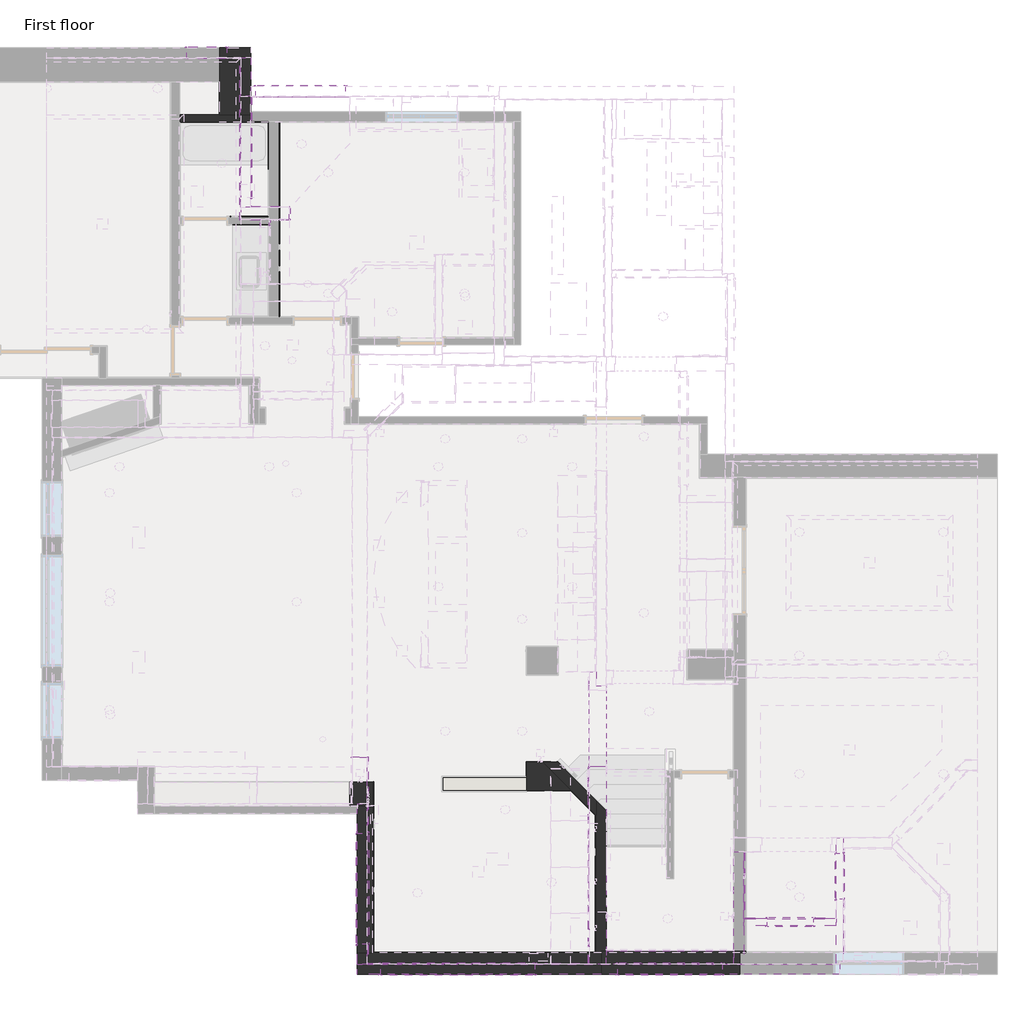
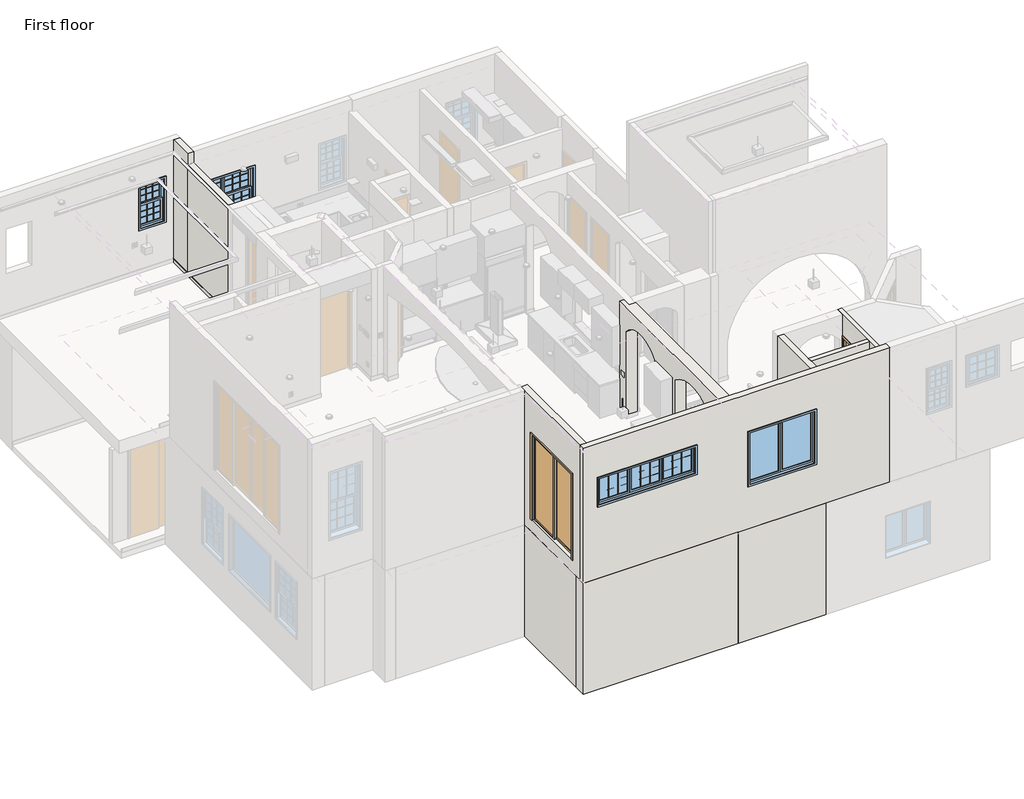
# One storey, part 3 of 14: 58 walls, 4 windows, 3 doors.
"""IFC4 building model written with IfcOpenShell, lengths in millimetres."""

from ifc_helpers import new_model, si_unit, frame, origin, origin_with_axes, place, context, project, spatial, polyline, circle_curve, outline, extrude, faceted_brep, transform, mapped, element, save
from ifc_brep_helpers import plane_surface, revolved_surface, advanced_brep
from components import door_2f67bbe1, door_9b4f77d6, window_c90586ce, window_8e291759, window_02472b39, window_cca6b115

model = new_model("IFC4")

# Units and contexts
model_context = context("Model", 3, world=origin())
ifc_project = project(units=[si_unit("LENGTHUNIT", "METRE", prefix="MILLI")], contexts=[model_context])

# Site, building, storey
site = spatial("IfcSite", under=ifc_project)
building = spatial("IfcBuilding", under=site)
storey = spatial("IfcBuildingStorey", under=building, Name="First floor", Elevation=0.0)

# Doors
placement = place(None, origin())
door_shape = door_2f67bbe1(model_context)
element("IfcDoor", 1, ObjectType="C_Single Door : 2'-4\" X 8'-0\"", at=placement, inside=storey, context=model_context, shape_type="MappedRepresentation", body=[
    mapped(door_shape, transform((7137.4, 857.25, 3251.2), x_axis=(1.0, 0.0, 0.0), y_axis=(0.0, 1.0, 0.0), z_axis=(0.0, 0.0, 1.0))),
])
element("IfcDoor", 2, ObjectType="C_Single Door : 2'-4\" X 8'-0\"", at=placement, inside=storey, context=model_context, shape_type="MappedRepresentation", body=[
    mapped(door_shape, transform((7956.55, 1612.9, 3251.2), x_axis=(0.0, -1.0, 0.0), y_axis=(1.0, 0.0, 0.0), z_axis=(0.0, 0.0, 1.0))),
])
door_2_shape = door_9b4f77d6(model_context)
element("IfcDoor", 3, ObjectType="C_Sliding Door Double Glass : 5'-10\" X 7'-8\"", at=placement, inside=storey, context=model_context, shape_type="MappedRepresentation", body=[
    mapped(door_2_shape, transform((82.55, 1409.7, 3251.2), x_axis=(0.0, -1.0, 0.0), y_axis=(1.0, 0.0, 0.0), z_axis=(0.0, 0.0, 1.0))),
])

# Walls
element("IfcWall", 4, ObjectType="Wall Border_T1", at=placement, inside=storey, context=model_context, shape_type="SweptSolid", body=[
    extrude(outline(polyline([(3307.2174749, 3505.3868122), (3455.3917009, 3357.2125862), (3446.4114448, 3348.2323301), (3301.9569627, 3492.6868122), (3307.2174749, 3492.6868122), (3307.2174749, 3505.3868122)])), origin_with_axes(), (0.0, 0.0, 1.0), 101.6),
])
element("IfcWall", 5, ObjectType="Wall Border_T1", at=placement, inside=storey, context=model_context, shape_type="Brep", body=[
    faceted_brep([(3307.2174749, 3505.3868122, 101.6), (3307.2174749, 3505.3868122, 0.0), (2795.4633407, 3505.3868122, 0.0), (2795.4633407, 3505.3868122, 101.6), (3307.2174749, 3492.6868122, 0.0), (3307.2174749, 3492.6868122, 101.6), (3301.9569627, 3492.6868122, 101.6), (2795.4633407, 3492.6868122, 101.6), (2795.4633407, 3492.6868122, 0.0), (3301.9569627, 3492.6868122, 0.0)], [[[0, 1, 2, 3]], [[4, 5, 6, 7, 8, 9]], [[1, 4, 9, 8, 2]], [[5, 0, 3, 7, 6]], [[1, 0, 5, 4]], [[3, 2, 8, 7]]]),
])
element("IfcWall", 6, ObjectType="Wall Border_T1", at=placement, inside=storey, context=model_context, shape_type="Brep", body=[
    faceted_brep([(2782.7633407, 3505.3868122, 0.0), (2782.7633407, 3251.1999999, 0.0), (2782.7633407, 3238.5176057, 0.0), (2782.7633407, 3238.5176057, 101.6), (2782.7633407, 3251.1999999, 101.6), (2782.7633407, 3505.3868122, 101.6), (2795.4633407, 3505.3868122, 0.0), (2795.4633407, 3505.3868122, 101.6), (2795.4633407, 3492.6868122, 101.6), (2795.4633407, 3238.5176057, 101.6), (2795.4633407, 3238.5176057, 0.0), (2795.4633407, 3492.6868122, 0.0)], [[[0, 1, 2, 3, 4, 5]], [[6, 7, 8, 9, 10, 11]], [[2, 1, 0, 6, 11, 10]], [[3, 2, 10, 9]], [[5, 4, 3, 9, 8, 7]], [[0, 5, 7, 6]]]),
])
element("IfcWall", 7, ObjectType="Wall Border_T1", at=placement, inside=storey, context=model_context, shape_type="Brep", body=[
    faceted_brep([(2782.7633407, 3251.1999999, 0.0), (1404.7963099, 3251.1999999, 0.0), (1404.7963099, 3251.1999999, 101.6), (2782.7633407, 3251.1999999, 101.6), (2782.7633407, 3238.4999999, 0.0), (2782.7633407, 3238.4999999, 101.6), (1417.4963099, 3238.4999999, 101.6), (1404.7963099, 3238.4999999, 101.6), (1404.7963099, 3238.4999999, 0.0), (1417.4963099, 3238.4999999, 0.0)], [[[0, 1, 2, 3]], [[4, 5, 6, 7, 8, 9]], [[1, 0, 4, 9, 8]], [[3, 2, 7, 6, 5]], [[0, 3, 5, 4]], [[2, 1, 8, 7]]]),
])
element("IfcWall", 8, ObjectType="Wall Border_T1", at=placement, inside=storey, context=model_context, shape_type="Brep", body=[
    faceted_brep([(1404.7963099, 3022.6000001, 0.0), (3520.4528287, 3022.6000001, 0.0), (3520.4528287, 3022.6000001, 101.6), (1404.7963099, 3022.6000001, 101.6), (1404.7963099, 3035.3000001, 0.0), (1404.7963099, 3035.3000001, 101.6), (1417.4963099, 3035.3000001, 101.6), (3507.7528287, 3035.3000001, 101.6), (3507.7528287, 3035.3000001, 0.0), (1417.4963099, 3035.3000001, 0.0)], [[[0, 1, 2, 3]], [[4, 5, 6, 7, 8, 9]], [[1, 0, 4, 9, 8]], [[3, 2, 7, 6, 5]], [[0, 3, 5, 4]], [[2, 1, 8, 7]]]),
])
element("IfcWall", 9, ObjectType="Wall Border_T1", at=placement, inside=storey, context=model_context, shape_type="Brep", body=[
    faceted_brep([(3507.7528287, 3035.3000001, 0.0), (3520.4528287, 3022.6000001, 0.0), (3924.3000001, 2618.7528287, 0.0), (3937.0000001, 2606.0528287, 0.0), (3937.0000001, 2606.0528287, 101.6), (3924.3000001, 2618.7528287, 101.6), (3520.4528287, 3022.6000001, 101.6), (3507.7528287, 3035.3000001, 101.6), (3525.7133409, 3035.3000001, 0.0), (3525.7133409, 3035.3000001, 101.6), (3937.0000001, 2624.0133409, 101.6), (3937.0000001, 2624.0133409, 0.0)], [[[0, 1, 2, 3, 4, 5, 6, 7]], [[8, 9, 10, 11]], [[3, 2, 1, 0, 8, 11]], [[7, 6, 5, 4, 10, 9]], [[4, 3, 11, 10]], [[0, 7, 9, 8]]]),
])
element("IfcWall", 10, ObjectType="Wall Border_T1", at=placement, inside=storey, context=model_context, shape_type="SweptSolid", body=[
    extrude(outline(polyline([(3924.3000001, 361.9499999), (3924.3000001, 2618.7528287), (3937.0000001, 2606.0528287), (3937.0000001, 361.9499999), (3924.3000001, 361.9499999)])), origin_with_axes(), (0.0, 0.0, 1.0), 101.6),
])
element("IfcWall", 11, ObjectType="Wall Border_T1", at=placement, inside=storey, context=model_context, shape_type="Brep", body=[
    faceted_brep([(3937.0000001, 361.9499999, 0.0), (3924.3000001, 361.9499999, 0.0), (266.7000001, 361.9499999, 0.0), (254.0000001, 361.9499999, 0.0), (254.0000001, 361.9499999, 101.6), (266.7000001, 361.9499999, 101.6), (3924.3000001, 361.9499999, 101.6), (3937.0000001, 361.9499999, 101.6), (3937.0000001, 349.2499999, 0.0), (3937.0000001, 349.2499999, 101.6), (254.0000001, 349.2499999, 101.6), (254.0000001, 349.2499999, 0.0)], [[[0, 1, 2, 3, 4, 5, 6, 7]], [[8, 9, 10, 11]], [[3, 2, 1, 0, 8, 11]], [[4, 3, 11, 10]], [[7, 6, 5, 4, 10, 9]], [[0, 7, 9, 8]]]),
])
element("IfcWall", 12, ObjectType="Wall Border_T1", at=placement, inside=storey, context=model_context, shape_type="Brep", body=[
    faceted_brep([(266.7000001, 361.9499999, 0.0), (266.7000001, 3174.9999999, 0.0), (266.7000001, 3174.9999999, 101.6), (266.7000001, 361.9499999, 101.6), (254.0000001, 361.9499999, 0.0), (254.0000001, 361.9499999, 101.6), (254.0000001, 3162.2999999, 101.6), (254.0000001, 3174.9999999, 101.6), (254.0000001, 3174.9999999, 0.0), (254.0000001, 3162.2999999, 0.0), (254.0000001, 2768.6, 0.0)], [[[0, 1, 2, 3]], [[4, 5, 6, 7, 8, 9, 10]], [[1, 0, 4, 10, 9, 8]], [[2, 1, 8, 7]], [[3, 2, 7, 6, 5]], [[0, 3, 5, 4]]]),
])
element("IfcWall", 13, ObjectType="Wall Border_T1", at=placement, inside=storey, context=model_context, shape_type="Brep", body=[
    faceted_brep([(-1460.5, 12496.8, 0.0), (-1473.2, 12496.8, 0.0), (-2108.2, 12496.8, 0.0), (-2108.2, 12496.8, 101.6), (-1473.2, 12496.8, 101.6), (-1460.5, 12496.8, 101.6), (-1460.5, 12484.1, 0.0), (-1460.5, 12484.1, 101.6), (-2108.2, 12484.1, 101.6), (-2108.2, 12484.1, 0.0)], [[[0, 1, 2, 3, 4, 5]], [[6, 7, 8, 9]], [[2, 1, 0, 6, 9]], [[3, 2, 9, 8]], [[5, 4, 3, 8, 7]], [[0, 5, 7, 6]]]),
])
element("IfcWall", 14, ObjectType="Wall Border_T1", at=placement, inside=storey, context=model_context, shape_type="Brep", body=[
    faceted_brep([(-1282.7, 10833.1, 0.0), (-1282.7, 10845.8, 0.0), (-1282.7, 14046.2, 0.0), (-1282.7, 14058.9, 0.0), (-1282.7, 14058.9, 101.6), (-1282.7, 14046.2, 101.6), (-1282.7, 10845.8, 101.6), (-1282.7, 10833.1, 101.6), (-1295.4, 10833.1, 0.0), (-1295.4, 10833.1, 101.6), (-1295.4, 14058.9, 101.6), (-1295.4, 14058.9, 0.0)], [[[0, 1, 2, 3, 4, 5, 6, 7]], [[8, 9, 10, 11]], [[3, 2, 1, 0, 8, 11]], [[4, 3, 11, 10]], [[7, 6, 5, 4, 10, 9]], [[0, 7, 9, 8]]]),
])
element("IfcWall", 15, ObjectType="Wall Border_T1", at=placement, inside=storey, context=model_context, shape_type="Brep", body=[
    faceted_brep([(-1460.5, 13271.5, 0.0), (-1460.5, 14058.9, 0.0), (-1460.5, 14058.9, 2565.4), (-1460.5, 13271.5, 2565.4), (-1473.2, 13271.5, 0.0), (-1473.2, 13271.5, 2565.4), (-1473.2, 14046.2, 2565.4), (-1473.2, 14058.9, 2565.4), (-1473.2, 14058.9, 0.0), (-1473.2, 14046.2, 0.0)], [[[0, 1, 2, 3]], [[4, 5, 6, 7, 8, 9]], [[1, 0, 4, 9, 8]], [[3, 2, 7, 6, 5]], [[0, 3, 5, 4]], [[2, 1, 8, 7]]]),
])
element("IfcWall", 16, ObjectType="Wall Border_T1", at=placement, inside=storey, context=model_context, shape_type="Brep", body=[
    faceted_brep([(-1473.2, 14058.9, 0.0), (-2933.7, 14058.9, 0.0), (-2933.7, 14058.9, 2565.4), (-1473.2, 14058.9, 2565.4), (-1473.2, 14046.2, 0.0), (-1473.2, 14046.2, 2565.4), (-2921.0, 14046.2, 2565.4), (-2933.7, 14046.2, 2565.4), (-2933.7, 14046.2, 0.0), (-2921.0, 14046.2, 0.0)], [[[0, 1, 2, 3]], [[4, 5, 6, 7, 8, 9]], [[1, 0, 4, 9, 8]], [[3, 2, 7, 6, 5]], [[0, 3, 5, 4]], [[2, 1, 8, 7]]]),
])
element("IfcWall", 17, ObjectType="Wall Border_T1", at=placement, inside=storey, context=model_context, shape_type="Brep", body=[
    faceted_brep([(4102.1, 3428.8947939, 3251.2), (3810.0, 3428.8947939, 3251.2), (3810.0, 3428.8947939, 3352.8), (4102.1, 3428.8947939, 3352.8), (4102.1, 3416.1947939, 3251.2), (4102.1, 3416.1947939, 3352.8), (3822.7, 3416.1947939, 3352.8), (3810.0, 3416.1947939, 3352.8), (3810.0, 3416.1947939, 3251.2), (3822.7, 3416.1947939, 3251.2)], [[[0, 1, 2, 3]], [[4, 5, 6, 7, 8, 9]], [[1, 0, 4, 9, 8]], [[3, 2, 7, 6, 5]], [[0, 3, 5, 4]], [[2, 1, 8, 7]]]),
])
element("IfcWall", 18, ObjectType="Wall Border_T1", at=placement, inside=storey, context=model_context, shape_type="SweptSolid", body=[
    extrude(outline(polyline([(3822.7, 3416.1947939), (3822.7, 3384.55), (3810.0, 3384.55), (3810.0, 3416.1947939), (3822.7, 3416.1947939)])), frame((0.0, 0.0, 3251.2), z_axis=(0.0, 0.0, 1.0), x_axis=(1.0, 0.0, 0.0)), (0.0, 0.0, 1.0), 101.6),
])
element("IfcWall", 19, ObjectType="Wall Border_T1", at=placement, inside=storey, context=model_context, shape_type="Brep", body=[
    faceted_brep([(6375.4, 2006.6, 3251.2), (6375.4, 914.4, 3251.2), (6375.4, 914.4, 3352.8), (6375.4, 2006.6, 3352.8), (6388.1, 2006.6, 3251.2), (6388.1, 2006.6, 3352.8), (6388.1, 927.1, 3352.8), (6388.1, 914.4, 3352.8), (6388.1, 914.4, 3251.2), (6388.1, 927.1, 3251.2)], [[[0, 1, 2, 3]], [[4, 5, 6, 7, 8, 9]], [[1, 0, 4, 9, 8]], [[3, 2, 7, 6, 5]], [[0, 3, 5, 4]], [[2, 1, 8, 7]]]),
])
element("IfcWall", 20, ObjectType="Wall Border_T1", at=placement, inside=storey, context=model_context, shape_type="SweptSolid", body=[
    extrude(outline(polyline([(6731.0, 914.4), (6388.1, 914.4), (6388.1, 927.1), (6731.0, 927.1), (6731.0, 914.4)])), frame((0.0, 0.0, 3251.2), z_axis=(0.0, 0.0, 1.0), x_axis=(1.0, 0.0, 0.0)), (0.0, 0.0, 1.0), 101.6),
])
element("IfcWall", 21, ObjectType="Wall Border_T1", at=placement, inside=storey, context=model_context, shape_type="SweptSolid", body=[
    extrude(outline(polyline([(7543.8, 927.1), (7886.7, 927.1), (7886.7, 914.4), (7543.8, 914.4), (7543.8, 927.1)])), frame((0.0, 0.0, 3251.2), z_axis=(0.0, 0.0, 1.0), x_axis=(1.0, 0.0, 0.0)), (0.0, 0.0, 1.0), 101.6),
])
element("IfcWall", 22, ObjectType="Wall Border_T1", at=placement, inside=storey, context=model_context, shape_type="Brep", body=[
    faceted_brep([(-1593.85, 12344.2947939, 3251.2), (-1593.85, 12445.8947939, 3251.2), (-1593.85, 12445.8947939, 3352.8), (-1593.85, 12344.2947939, 3352.8), (-1606.55, 12344.2947939, 3251.2), (-1606.55, 12344.2947939, 3352.8), (-1606.55, 12433.1947939, 3352.8), (-1606.55, 12445.8947939, 3352.8), (-1606.55, 12445.8947939, 3251.2), (-1606.55, 12433.1947939, 3251.2)], [[[0, 1, 2, 3]], [[4, 5, 6, 7, 8, 9]], [[1, 0, 4, 9, 8]], [[3, 2, 7, 6, 5]], [[0, 3, 5, 4]], [[2, 1, 8, 7]]]),
])
element("IfcWall", 23, ObjectType="Wall Border_T1", at=placement, inside=storey, context=model_context, shape_type="Brep", body=[
    faceted_brep([(-1606.55, 12445.8947939, 3251.2), (-1924.05, 12445.8947939, 3251.2), (-1936.75, 12445.8947939, 3251.2), (-1936.75, 12445.8947939, 3352.8), (-1924.05, 12445.8947939, 3352.8), (-1606.55, 12445.8947939, 3352.8), (-1606.55, 12433.1947939, 3251.2), (-1606.55, 12433.1947939, 3352.8), (-1936.75, 12433.1947939, 3352.8), (-1936.75, 12433.1947939, 3251.2)], [[[0, 1, 2, 3, 4, 5]], [[6, 7, 8, 9]], [[2, 1, 0, 6, 9]], [[5, 4, 3, 8, 7]], [[0, 5, 7, 6]], [[3, 2, 9, 8]]]),
])
element("IfcWall", 24, ObjectType="Wall Border_T1", at=placement, inside=storey, context=model_context, shape_type="Brep", body=[
    faceted_brep([(-1924.05, 12445.8947939, 3251.2), (-1924.05, 15113.0, 3251.2), (-1924.05, 15113.0, 3352.8), (-1924.05, 12445.8947939, 3352.8), (-1936.75, 12445.8947939, 3251.2), (-1936.75, 12445.8947939, 3352.8), (-1936.75, 15100.3, 3352.8), (-1936.75, 15113.0, 3352.8), (-1936.75, 15113.0, 3251.2), (-1936.75, 15100.3, 3251.2)], [[[0, 1, 2, 3]], [[4, 5, 6, 7, 8, 9]], [[1, 0, 4, 9, 8]], [[3, 2, 7, 6, 5]], [[0, 3, 5, 4]], [[2, 1, 8, 7]]]),
])
element("IfcWall", 25, ObjectType="Wall Border_T1", at=placement, inside=storey, context=model_context, shape_type="Brep", body=[
    faceted_brep([(-1441.45, 12344.2947939, 3251.2), (-1441.45, 12433.1947939, 3251.2), (-1441.45, 12445.8947939, 3251.2), (-1441.45, 12445.8947939, 3352.8), (-1441.45, 12433.1947939, 3352.8), (-1441.45, 12344.2947939, 3352.8), (-1454.15, 12344.2947939, 3251.2), (-1454.15, 12344.2947939, 3352.8), (-1454.15, 12445.8947939, 3352.8), (-1454.15, 12445.8947939, 3251.2)], [[[0, 1, 2, 3, 4, 5]], [[6, 7, 8, 9]], [[2, 1, 0, 6, 9]], [[5, 4, 3, 8, 7]], [[0, 5, 7, 6]], [[3, 2, 9, 8]]]),
])
element("IfcWall", 26, ObjectType="Wall Border_T1", at=placement, inside=storey, context=model_context, shape_type="Brep", body=[
    faceted_brep([(-1441.45, 12433.1947939, 3251.2), (-1111.25, 12433.1947939, 3251.2), (-1111.25, 12433.1947939, 3352.8), (-1441.45, 12433.1947939, 3352.8), (-1441.45, 12445.8947939, 3251.2), (-1441.45, 12445.8947939, 3352.8), (-1123.95, 12445.8947939, 3352.8), (-1111.25, 12445.8947939, 3352.8), (-1111.25, 12445.8947939, 3251.2), (-1123.95, 12445.8947939, 3251.2)], [[[0, 1, 2, 3]], [[4, 5, 6, 7, 8, 9]], [[1, 0, 4, 9, 8]], [[3, 2, 7, 6, 5]], [[0, 3, 5, 4]], [[2, 1, 8, 7]]]),
])
element("IfcWall", 27, ObjectType="Wall Border_T1", at=placement, inside=storey, context=model_context, shape_type="Brep", body=[
    faceted_brep([(-1111.25, 12445.8947939, 3251.2), (-1111.25, 12637.3654945, 3251.2), (-1111.25, 12649.0947939, 3251.2), (-1111.25, 12649.0947939, 3352.8), (-1111.25, 12637.3654945, 3352.8), (-1111.25, 12445.8947939, 3352.8), (-1123.95, 12445.8947939, 3251.2), (-1123.95, 12445.8947939, 3352.8), (-1123.95, 12623.6947939, 3352.8), (-1123.95, 12649.0947939, 3352.8), (-1123.95, 12649.0947939, 3251.2)], [[[0, 1, 2, 3, 4, 5]], [[6, 7, 8, 9, 10]], [[2, 1, 0, 6, 10]], [[5, 4, 3, 9, 8, 7]], [[0, 5, 7, 6]], [[3, 2, 10, 9]]]),
])
element("IfcWall", 28, ObjectType="Wall Border_T1", at=placement, inside=storey, context=model_context, shape_type="Brep", body=[
    faceted_brep([(-1123.95, 12661.7947939, 3784.6), (-1746.25, 12661.7947939, 3784.6), (-1758.95, 12661.7947939, 3784.6), (-1758.95, 12661.7947939, 4330.7), (-1746.25, 12661.7947939, 4330.7), (-1123.95, 12661.7947939, 4330.7), (-1123.95, 12649.0947939, 3784.6), (-1123.95, 12649.0947939, 4330.7), (-1758.95, 12649.0947939, 4330.7), (-1758.95, 12649.0947939, 3784.6)], [[[0, 1, 2, 3, 4, 5]], [[6, 7, 8, 9]], [[2, 1, 0, 6, 9]], [[5, 4, 3, 8, 7]], [[0, 5, 7, 6]], [[3, 2, 9, 8]]]),
])
element("IfcWall", 29, ObjectType="Wall Border_T1", at=placement, inside=storey, context=model_context, shape_type="Brep", body=[
    faceted_brep([(-1746.25, 12661.7947939, 3784.6), (-1746.25, 14465.1947939, 3784.6), (-1746.25, 14477.8947939, 3784.6), (-1746.25, 14477.8947939, 4330.7), (-1746.25, 14465.1947939, 4330.7), (-1746.25, 12661.7947939, 4330.7), (-1758.95, 12661.7947939, 3784.6), (-1758.95, 12661.7947939, 4330.7), (-1758.95, 14477.8947939, 4330.7), (-1758.95, 14477.8947939, 3784.6)], [[[0, 1, 2, 3, 4, 5]], [[6, 7, 8, 9]], [[2, 1, 0, 6, 9]], [[5, 4, 3, 8, 7]], [[0, 5, 7, 6]], [[3, 2, 9, 8]]]),
])
element("IfcWall", 30, ObjectType="Wall Border_T1", at=placement, inside=storey, context=model_context, shape_type="SweptSolid", body=[
    extrude(outline(polyline([(-1746.25, 14477.8947939), (-127.0, 14477.8947939), (-127.0, 14465.1947939), (-1746.25, 14465.1947939), (-1746.25, 14477.8947939)])), frame((0.0, 0.0, 3784.6), z_axis=(0.0, 0.0, 1.0), x_axis=(1.0, 0.0, 0.0)), (0.0, 0.0, 1.0), 546.1),
])
element("IfcWall", 31, ObjectType="Wall Border_T1", at=placement, inside=storey, context=model_context, shape_type="Brep", body=[
    faceted_brep([(3517.9, 165.1, 4165.6), (3822.7, 165.1, 4165.6), (3822.7, 165.1, 4546.6), (3517.9, 165.1, 4546.6), (3517.9, 177.8, 4165.6), (3517.9, 177.8, 4546.6), (3810.0, 177.8, 4546.6), (3822.7, 177.8, 4546.6), (3822.7, 177.8, 4165.6), (3810.0, 177.8, 4165.6)], [[[0, 1, 2, 3]], [[4, 5, 6, 7, 8, 9]], [[1, 0, 4, 9, 8]], [[3, 2, 7, 6, 5]], [[0, 3, 5, 4]], [[2, 1, 8, 7]]]),
])
element("IfcWall", 32, ObjectType="Wall Border_T1", at=placement, inside=storey, context=model_context, shape_type="Brep", body=[
    faceted_brep([(3822.7, 177.8, 4165.6), (3822.7, 1016.0, 4165.6), (3822.7, 1016.0, 4318.0), (3822.7, 1016.0, 4546.6), (3822.7, 177.8, 4546.6), (3810.0, 177.8, 4165.6), (3810.0, 177.8, 4546.6), (3810.0, 1016.0, 4546.6), (3810.0, 1016.0, 4318.0), (3810.0, 1016.0, 4165.6)], [[[0, 1, 2, 3, 4]], [[5, 6, 7, 8, 9]], [[1, 0, 5, 9]], [[3, 2, 1, 9, 8, 7]], [[4, 3, 7, 6]], [[0, 4, 6, 5]]]),
])
element("IfcWall", 33, ObjectType="Wall Border_T1", at=placement, inside=storey, context=model_context, shape_type="SweptSolid", body=[
    extrude(outline(polyline([(3187.7, 177.8), (3517.9, 177.8), (3517.9, 165.1), (3187.7, 165.1), (3187.7, 177.8)])), frame((0.0, 0.0, 4165.6), z_axis=(0.0, 0.0, 1.0), x_axis=(1.0, 0.0, 0.0)), (0.0, 0.0, 1.0), 381.0),
])
element("IfcWall", 34, ObjectType="Wall Border_T1", at=placement, inside=storey, context=model_context, shape_type="Brep", body=[
    faceted_brep([(3810.0, 3390.9, 4165.6), (3810.0, 2489.2, 4165.6), (3810.0, 2489.2, 4318.0), (3810.0, 2489.2, 4546.6), (3810.0, 3390.9, 4546.6), (3822.7, 3390.9, 4165.6), (3822.7, 3390.9, 4546.6), (3822.7, 2489.2, 4546.6), (3822.7, 2489.2, 4318.0), (3822.7, 2489.2, 4165.6)], [[[0, 1, 2, 3, 4]], [[5, 6, 7, 8, 9]], [[1, 0, 5, 9]], [[3, 2, 1, 9, 8, 7]], [[4, 3, 7, 6]], [[0, 4, 6, 5]]]),
])
element("IfcWall", 35, ObjectType="Wall Border_T1", at=placement, inside=storey, context=model_context, shape_type="SweptSolid", body=[
    extrude(outline(polyline([(3810.0, 1016.0), (3810.0, 2489.2), (3822.7, 2489.2), (3822.7, 1016.0), (3810.0, 1016.0)])), frame((0.0, 0.0, 4165.6), z_axis=(0.0, 0.0, 1.0), x_axis=(1.0, 0.0, 0.0)), (0.0, 0.0, 1.0), 152.4),
])
element("IfcWall", 36, ObjectType="Wall Border_T1", at=placement, inside=storey, context=model_context, shape_type="Brep", body=[
    faceted_brep([(3086.1, 177.8, 3251.2), (177.8, 177.8, 3251.2), (165.1, 177.8, 3251.2), (165.1, 177.8, 3352.8), (177.8, 177.8, 3352.8), (3086.1, 177.8, 3352.8), (3086.1, 165.1, 3251.2), (3086.1, 165.1, 3352.8), (165.1, 165.1, 3352.8), (165.1, 165.1, 3251.2)], [[[0, 1, 2, 3, 4, 5]], [[6, 7, 8, 9]], [[2, 1, 0, 6, 9]], [[5, 4, 3, 8, 7]], [[0, 5, 7, 6]], [[3, 2, 9, 8]]]),
])
element("IfcWall", 37, ObjectType="Wall Border_T1", at=placement, inside=storey, context=model_context, shape_type="SweptSolid", body=[
    extrude(outline(polyline([(3194.05, 165.1), (3086.1, 165.1), (3086.1, 177.8), (3194.05, 177.8), (3194.05, 165.1)])), frame((0.0, 0.0, 3251.2), z_axis=(0.0, 0.0, 1.0), x_axis=(1.0, 0.0, 0.0)), (0.0, 0.0, 1.0), 101.6),
])
element("IfcWall", 38, ObjectType="Wall Border_T1", at=placement, inside=storey, context=model_context, shape_type="SweptSolid", body=[
    extrude(outline(polyline([(165.1, 177.8), (165.1, 469.9), (177.8, 469.9), (177.8, 177.8), (165.1, 177.8)])), frame((0.0, 0.0, 3251.2), z_axis=(0.0, 0.0, 1.0), x_axis=(1.0, 0.0, 0.0)), (0.0, 0.0, 1.0), 101.6),
])
element("IfcWall", 39, ObjectType="Wall Border_T1", at=placement, inside=storey, context=model_context, shape_type="Brep", body=[
    faceted_brep([(177.8, 2349.5, 3251.2), (177.8, 3581.4, 3251.2), (177.8, 3581.4, 3352.8), (177.8, 2349.5, 3352.8), (165.1, 2349.5, 3251.2), (165.1, 2349.5, 3352.8), (165.1, 3568.7, 3352.8), (165.1, 3581.4, 3352.8), (165.1, 3581.4, 3251.2), (165.1, 3568.7, 3251.2)], [[[0, 1, 2, 3]], [[4, 5, 6, 7, 8, 9]], [[1, 0, 4, 9, 8]], [[3, 2, 7, 6, 5]], [[0, 3, 5, 4]], [[2, 1, 8, 7]]]),
])
element("IfcWall", 40, ObjectType="Wall Border_T1", at=placement, inside=storey, context=model_context, shape_type="Brep", body=[
    faceted_brep([(165.1, 3581.4, 3251.2), (-101.6, 3581.4, 3251.2), (-101.6, 3581.4, 3352.8), (165.1, 3581.4, 3352.8), (165.1, 3568.7, 3251.2), (165.1, 3568.7, 3352.8), (-88.9, 3568.7, 3352.8), (-101.6, 3568.7, 3352.8), (-101.6, 3568.7, 3251.2), (-88.9, 3568.7, 3251.2)], [[[0, 1, 2, 3]], [[4, 5, 6, 7, 8, 9]], [[1, 0, 4, 9, 8]], [[3, 2, 7, 6, 5]], [[0, 3, 5, 4]], [[2, 1, 8, 7]]]),
])
element("IfcWall", 41, ObjectType="Wall Border_T1", at=placement, inside=storey, context=model_context, shape_type="SweptSolid", body=[
    extrude(outline(polyline([(1404.7963099, 3035.3000001), (1404.7963099, 3238.4999999), (1417.4963099, 3238.4999999), (1417.4963099, 3035.3000001), (1404.7963099, 3035.3000001)])), origin_with_axes(), (0.0, 0.0, 1.0), 101.6),
])
element("IfcWall", 42, ObjectType="Wall Border_T1", at=placement, inside=storey, context=model_context, shape_type="Brep", body=[
    faceted_brep([(-2057.4, 12357.1, 838.2), (-1473.2, 12357.1, 838.2), (-1460.5, 12357.1, 838.2), (-1460.5, 12357.1, 939.8), (-1473.2, 12357.1, 939.8), (-2057.4, 12357.1, 939.8), (-2057.4, 12369.8, 838.2), (-2057.4, 12369.8, 939.8), (-1460.5, 12369.8, 939.8), (-1460.5, 12369.8, 838.2)], [[[0, 1, 2, 3, 4, 5]], [[6, 7, 8, 9]], [[2, 1, 0, 6, 9]], [[5, 4, 3, 8, 7]], [[0, 5, 7, 6]], [[3, 2, 9, 8]]]),
])
element("IfcWall", 43, ObjectType="Wall_1' 1 3/4\"", at=placement, inside=storey, context=model_context, shape_type="Brep", body=[
    faceted_brep([(4019.5496704, 349.25, 2908.3), (4019.5496704, 349.25, 2565.4), (4019.5496704, 349.25, 0.0), (4019.5496704, 349.25, -152.4), (254.0176056, 349.25, -152.4), (0.0176056, 349.25, -152.4), (0.0176056, 349.25, 2908.3), (254.0176056, 349.25, 2908.3), (4019.5496704, 0.0, -152.4), (4019.5496704, 0.0, 2908.3), (0.0176056, 0.0, 2908.3), (0.0176056, 0.0, -152.4)], [[[0, 1, 2, 3, 4, 5, 6, 7]], [[8, 9, 10, 11]], [[5, 4, 3, 8, 11]], [[0, 7, 6, 10, 9]], [[6, 5, 11, 10]], [[0, 9, 8, 3, 2, 1]]]),
])
element("IfcWall", 44, ObjectType="Wall_1' 3 1/2\"", at=placement, inside=storey, context=model_context, shape_type="Brep", body=[
    faceted_brep([(254.0000001, 3162.3, 0.0), (-127.0, 3162.3, 0.0), (-127.0, 3162.3, 762.0), (-127.0, 3162.3, 2565.4), (254.0000001, 3162.3, 2565.4), (254.0000001, 2768.6, 0.0), (254.0000001, 2768.6, 2565.4), (-127.0, 2768.6, 2565.4), (-127.0, 2768.6, 762.0), (-127.0, 2768.6, 0.0)], [[[0, 1, 2, 3, 4]], [[5, 6, 7, 8, 9]], [[1, 0, 5, 9]], [[3, 2, 1, 9, 8, 7]], [[4, 3, 7, 6]], [[0, 4, 6, 5]]]),
])
element("IfcWall", 45, ObjectType="Wall_1' 8 1/2\"", at=placement, inside=storey, context=model_context, shape_type="Brep", body=[
    faceted_brep([(-2279.65, 15278.1, -152.4), (-2279.65, 14719.3, -152.4), (-2279.65, 14058.9, -152.4), (-2279.65, 14058.9, 0.0), (-2279.65, 14173.2, 0.0), (-2279.65, 14173.2, 2565.4), (-2279.65, 14058.9, 2565.4), (-2279.65, 14058.9, 2908.3), (-2279.65, 14719.3, 2908.3), (-2279.65, 15278.1, 2908.3), (-1758.95, 15278.1, -152.4), (-1758.95, 15278.1, 2908.3), (-1758.95, 14224.0, 2908.3), (-1758.95, 14058.9, 2908.3), (-1758.95, 14058.9, 2565.4), (-1758.95, 14173.2, 2565.4), (-1758.95, 14173.2, 0.0), (-1758.95, 14058.9, 0.0), (-1758.95, 14058.9, -152.4), (-1758.95, 14224.0, -152.4)], [[[0, 1, 2, 3, 4, 5, 6, 7, 8, 9]], [[10, 11, 12, 13, 14, 15, 16, 17, 18, 19]], [[2, 1, 0, 10, 19, 18]], [[9, 8, 7, 13, 12, 11]], [[0, 9, 11, 10]], [[16, 4, 3, 17]], [[3, 2, 18, 17]], [[14, 6, 5, 15]], [[5, 4, 16, 15]], [[7, 6, 14, 13]]]),
])
element("IfcWall", 46, ObjectType="Wall_1'3\"", at=placement, inside=storey, context=model_context, shape_type="Brep", body=[
    faceted_brep([(4019.5496704, 381.0, 2565.4), (4102.1, 381.0, 2565.4), (6210.3, 381.0, 2565.4), (6400.8, 381.0, 2565.4), (6400.8, 381.0, 0.0), (6210.3, 381.0, 0.0), (4102.0996704, 381.0, 0.0), (4019.5496704, 381.0, 0.0), (4019.5496704, 0.0, 2908.3), (4019.5496704, 0.0, -152.4), (6305.55, 0.0, -152.4), (6305.55, 0.0, 2908.3), (4019.5496704, 349.25, -152.4), (4019.5496704, 355.6, -152.4), (6305.55, 355.6, -152.4), (6305.55, 355.6, 2908.3), (5841.9131509, 355.6, 2908.3), (4019.5496704, 355.6, 2908.3), (4019.5496704, 349.25, 2908.3), (6400.8, 355.6, 2565.4), (6400.8, 355.6, 101.6), (6400.8, 355.6, 0.0), (6400.8, 368.3, 0.0), (4019.5496704, 355.6, 2565.4), (4019.5496704, 355.6, 0.0), (6305.55, 355.6, 2565.4), (6305.55, 355.6, 0.0), (5841.9131509, 355.6, 2565.4)], [[[0, 1, 2, 3, 4, 5, 6, 7]], [[8, 9, 10, 11]], [[10, 9, 12, 13, 14]], [[8, 11, 15, 16, 17, 18]], [[3, 19, 20, 21, 22, 4]], [[9, 8, 18, 17, 23, 0, 7, 24, 13, 12]], [[19, 25, 26, 21, 20]], [[11, 10, 14, 26, 25, 15]], [[27, 25, 19, 3, 2, 1, 0, 23]], [[16, 27, 23, 17]], [[27, 16, 15, 25]], [[26, 24, 7, 6, 5, 4, 22, 21]], [[24, 26, 14, 13]]]),
])
element("IfcWall", 47, ObjectType="Wall_1'6\"", at=placement, inside=storey, context=model_context, shape_type="SweptSolid", body=[
    extrude(outline(polyline([(2795.4484009, 3492.5046239), (3068.5144491, 3492.4988917), (3525.7240469, 3035.2892939), (2795.4388034, 3035.304624), (2795.4484009, 3492.5046239)])), origin_with_axes(), (0.0, 0.0, 1.0), 2565.4),
])
element("IfcWall", 48, ObjectType="Wall_10\"", at=placement, inside=storey, context=model_context, shape_type="Brep", body=[
    faceted_brep([(254.0176056, 349.25, -152.4), (254.0176056, 2768.6, -152.4), (254.0176056, 2768.6, 2908.3), (254.0176056, 349.25, 2908.3), (0.0176056, 349.25, -152.4), (0.0176056, 349.25, 2908.3), (0.0176056, 2641.6, 2908.3), (0.0176056, 2768.6, 2908.3), (0.0176056, 2768.6, -152.4), (0.0176056, 2641.6, -152.4)], [[[0, 1, 2, 3]], [[4, 5, 6, 7, 8, 9]], [[1, 0, 4, 9, 8]], [[3, 2, 7, 6, 5]], [[0, 3, 5, 4]], [[2, 1, 8, 7]]]),
])
element("IfcWall", 49, ObjectType="Wall_11\"", at=placement, inside=storey, context=model_context, shape_type="AdvancedBrep", body=[
    advanced_brep(
    [(3822.7, 165.1, 6299.2), (3822.7, 4984.6447939, 6299.2), (3822.7, 4984.6447939, 3251.2), (3822.7, 4686.1947939, 3251.2), (3822.7, 4686.1947939, 5638.8), (3822.7, 3416.1947939, 5638.8), (3822.7, 3416.1947939, 3251.2), (3822.7, 165.1, 3251.2), (3822.7, 1016.0, 5638.8), (3822.7, 1016.0, 4318.0), (3822.7, 2489.2, 4318.0), (3822.7, 2489.2, 5638.8), (4102.1, 165.1, 6299.2), (4102.1, 165.1, 3251.2), (4102.1, 3416.1947939, 3251.2), (4102.1, 3416.1947939, 5638.8), (4102.1, 4686.1947939, 5638.8), (4102.1, 4686.1947939, 3251.2), (4102.1, 4756.15, 3251.2), (4102.1, 4756.15, 6299.2), (4102.1, 1016.0, 4318.0), (4102.1, 1016.0, 5638.8), (4102.1, 2489.2, 5638.8), (4102.1, 2489.2, 4318.0), (3937.0, 4984.6447939, 3251.2), (3937.0, 4756.15, 3251.2), (3937.0, 4756.15, 6299.2), (3937.0, 4984.6447939, 6299.2)],
    [
        (0, 1),
        (1, 2),
        (2, 3),
        (3, 4),
        (4, 5, circle_curve(frame((3822.7, 4051.1947939, 5129.7416667), z_axis=(1.0, 0.0, 0.0), x_axis=(0.0, -1.0, 0.0)), 813.8583333)),
        (5, 6),
        (6, 7),
        (7, 0),
        (8, 9),
        (9, 10),
        (10, 11),
        (11, 8, circle_curve(frame((3822.7, 1752.6, 4807.5272727), z_axis=(1.0, 0.0, 0.0), x_axis=(0.0, -1.0, 0.0)), 1110.6727273)),
        (12, 13),
        (13, 14),
        (14, 15),
        (15, 16, circle_curve(frame((4102.1, 4051.1947939, 5129.7416667), z_axis=(-1.0, 0.0, 0.0), x_axis=(0.0, -1.0, 0.0)), 813.8583333)),
        (16, 17),
        (17, 18),
        (18, 19),
        (19, 12),
        (20, 21),
        (21, 22, circle_curve(frame((4102.1, 1752.6, 4807.5272727), z_axis=(-1.0, 0.0, 0.0), x_axis=(0.0, -1.0, 0.0)), 1110.6727273)),
        (22, 23),
        (23, 20),
        (13, 7),
        (6, 14),
        (2, 24),
        (24, 25),
        (25, 18),
        (17, 3),
        (0, 12),
        (19, 26),
        (26, 27),
        (27, 1),
        (27, 24),
        (16, 4),
        (5, 15),
        (8, 21),
        (20, 9),
        (10, 23),
        (22, 11),
        (26, 25),
    ],
    [
        plane_surface(frame((3822.7, 5003.6947939, 3251.2), z_axis=(-1.0, 0.0, 0.0), x_axis=(0.0, -1.0, 0.0))),
        plane_surface(frame((4102.1, 5003.6947939, 3251.2), z_axis=(1.0, 0.0, 0.0), x_axis=(0.0, 1.0, 0.0))),
        plane_surface(frame((3822.7, 4984.6447939, 3251.2), z_axis=(0.0, 0.0, -1.0), x_axis=(1.0, 0.0, 0.0))),
        plane_surface(frame((3822.7, 82.55, 6299.2), z_axis=(0.0, 0.0, 1.0), x_axis=(1.0, 0.0, 0.0))),
        plane_surface(frame((3822.7, 4984.6447939, 6299.2), z_axis=(0.0, 1.0, 0.0), x_axis=(1.0, 0.0, 0.0))),
        plane_surface(frame((7693.6373882, 165.1, 2908.3), z_axis=(0.0, -1.0, 0.0), x_axis=(-1.0, 0.0, 0.0))),
        plane_surface(frame((3797.3, 4686.1947939, 5638.8), z_axis=(0.0, -1.0, 0.0), x_axis=(1.0, 0.0, 0.0))),
        plane_surface(frame((3797.3, 3416.1947939, 3251.2), z_axis=(0.0, 1.0, 0.0), x_axis=(1.0, 0.0, 0.0))),
        revolved_surface(polyline([(3822.7, 3237.3364606, 5129.7416667), (4102.1, 3237.3364606, 5129.7416667)]), (4102.1, 4051.1947939, 5129.7416667), (-1.0, 0.0, 0.0)),
        plane_surface(frame((3822.7, 1016.0, 4318.0), z_axis=(0.0, 1.0, 0.0), x_axis=(1.0, 0.0, 0.0))),
        plane_surface(frame((3822.7, 2489.2, 5638.8), z_axis=(0.0, -1.0, 0.0), x_axis=(1.0, 0.0, 0.0))),
        plane_surface(frame((3822.7, 2489.2, 4318.0), z_axis=(0.0, 0.0, 1.0), x_axis=(1.0, 0.0, 0.0))),
        revolved_surface(polyline([(3822.7, 641.9272727, 4807.5272727), (4102.1, 641.9272727, 4807.5272727)]), (4102.1, 1752.6, 4807.5272727), (-1.0, 0.0, 0.0)),
        plane_surface(frame((3937.0, 9943.9947939, 3251.2), z_axis=(1.0, 0.0, 0.0), x_axis=(0.0, -1.0, 0.0))),
        plane_surface(frame((3937.0, 4756.15, 3251.2), z_axis=(0.0, 1.0, 0.0), x_axis=(1.0, 0.0, 0.0))),
    ],
    [
        (0, [[1, 2, 3, 4, 5, 6, 7, 8], [9, 10, 11, 12]]),
        (1, [[13, 14, 15, 16, 17, 18, 19, 20], [21, 22, 23, 24]]),
        (2, [[25, -7, 26, -14]]),
        (2, [[-3, 27, 28, 29, -18, 30]]),
        (3, [[-1, 31, -20, 32, 33, 34]]),
        (4, [[-2, -34, 35, -27]]),
        (5, [[-8, -25, -13, -31]]),
        (6, [[36, -4, -30, -17]]),
        (7, [[37, -15, -26, -6]]),
        (8, [[-36, -16, -37, -5]]),
        (9, [[38, -21, 39, -9]]),
        (10, [[40, -23, 41, -11]]),
        (11, [[-39, -24, -40, -10]]),
        (12, [[-38, -12, -41, -22]]),
        (13, [[42, -28, -35, -33]]),
        (14, [[-42, -32, -19, -29]]),
    ],
),
])
element("IfcWall", 50, ObjectType="Wall_4.5\"", at=placement, inside=storey, context=model_context, shape_type="Brep", body=[
    faceted_brep([(8013.7, 203.2, 3251.2), (8013.7, 1231.9, 3251.2), (8013.7, 1231.9, 5715.0), (8013.7, 1993.9, 5715.0), (8013.7, 1993.9, 3251.2), (8013.7, 2082.8, 3251.2), (8013.7, 2247.9, 3251.2), (8013.7, 2247.9, 6299.2), (8013.7, 2082.8, 6299.2), (8013.7, 203.2, 6299.2), (7899.4, 1231.9, 5715.0), (7899.4, 1231.9, 3251.2), (7899.4, 914.4, 3251.2), (7899.4, 800.1, 3251.2), (7899.4, 165.1, 3251.2), (7899.4, 165.1, 6299.2), (7899.4, 800.1, 6299.2), (7899.4, 914.4, 6299.2), (7899.4, 2019.3, 6299.2), (7899.4, 2247.9, 6299.2), (7899.4, 2247.9, 3251.2), (7899.4, 2019.3, 3251.2), (7899.4, 1993.9, 3251.2), (7899.4, 1993.9, 5715.0), (7956.55, 203.2, 3251.2), (7956.55, 165.1, 3251.2), (7956.55, 165.1, 6299.2), (7956.55, 203.2, 6299.2)], [[[0, 1, 2, 3, 4, 5, 6, 7, 8, 9]], [[10, 11, 12, 13, 14, 15, 16, 17, 18, 19, 20, 21, 22, 23]], [[22, 21, 20, 6, 5, 4]], [[14, 13, 12, 11, 1, 0, 24, 25]], [[9, 8, 7, 19, 18, 17, 16, 15, 26, 27]], [[0, 9, 27, 24]], [[27, 26, 25, 24]], [[26, 15, 14, 25]], [[7, 6, 20, 19]], [[2, 1, 11, 10]], [[3, 2, 10, 23]], [[4, 3, 23, 22]]]),
])
element("IfcWall", 51, ObjectType="Wall_4.5\"", at=placement, inside=storey, context=model_context, shape_type="SweptSolid", body=[
    extrude(outline(polyline([(5715.0, 7518.4), (3251.2, 7518.4), (3251.2, 7899.4), (6299.2, 7899.4), (6299.2, 6375.4), (3251.2, 6375.4), (3251.2, 6756.4), (5715.0, 6756.4), (5715.0, 7518.4)])), frame((0.0, 800.1, 0.0), z_axis=(0.0, 1.0, 0.0), x_axis=(0.0, 0.0, 1.0)), (0.0, 0.0, 1.0), 114.3),
])
element("IfcWall", 52, ObjectType="Wall_4.5\"", at=placement, inside=storey, context=model_context, shape_type="Brep", body=[
    faceted_brep([(-1758.95, 14173.2, 0.0), (-2279.65, 14173.2, 0.0), (-2933.7, 14173.2, 0.0), (-2933.7, 14173.2, 2565.4), (-2279.65, 14173.2, 2565.4), (-1758.95, 14173.2, 2565.4), (-1758.95, 14058.9, 0.0), (-1758.95, 14058.9, 2565.4), (-2279.65, 14058.9, 2565.4), (-2933.7, 14058.9, 2565.4), (-2933.7, 14058.9, 0.0), (-2279.65, 14058.9, 0.0)], [[[0, 1, 2, 3, 4, 5]], [[6, 7, 8, 9, 10, 11]], [[2, 1, 0, 6, 11, 10]], [[5, 4, 3, 9, 8, 7]], [[0, 5, 7, 6]], [[3, 2, 10, 9]]]),
])
element("IfcWall", 53, ObjectType="Wall_6.5\"", at=placement, inside=storey, context=model_context, shape_type="Brep", body=[
    faceted_brep([(7956.55, 165.1, 2908.3), (165.1, 165.1, 2908.3), (0.0, 165.1, 2908.3), (0.0, 165.1, 6604.0), (165.1, 165.1, 6604.0), (7956.55, 165.1, 6604.0), (7956.55, 165.1, 6299.2), (7956.55, 165.1, 3251.2), (2921.0, 165.1, 5664.2), (381.0, 165.1, 5664.2), (381.0, 165.1, 4902.2), (2921.0, 165.1, 4902.2), (6019.8, 165.1, 5562.6), (4292.6, 165.1, 5562.6), (4292.6, 165.1, 4089.4), (6019.8, 165.1, 4089.4), (0.0, 0.0, 2908.3), (7956.55, 0.0, 2908.3), (7956.55, 0.0, 6604.0), (0.0, 0.0, 6604.0), (381.0, 0.0, 5664.2), (2921.0, 0.0, 5664.2), (2921.0, 0.0, 4902.2), (381.0, 0.0, 4902.2), (4292.6, 0.0, 5562.6), (6019.8, 0.0, 5562.6), (6019.8, 0.0, 4089.4), (4292.6, 0.0, 4089.4)], [[[0, 1, 2, 3, 4, 5, 6, 7], [8, 9, 10, 11], [12, 13, 14, 15]], [[16, 17, 18, 19], [20, 21, 22, 23], [24, 25, 26, 27]], [[2, 1, 0, 17, 16]], [[5, 4, 3, 19, 18]], [[3, 2, 16, 19]], [[5, 18, 17, 0, 7, 6]], [[21, 20, 9, 8]], [[22, 21, 8, 11]], [[23, 22, 11, 10]], [[20, 23, 10, 9]], [[24, 13, 12, 25]], [[25, 12, 15, 26]], [[26, 15, 14, 27]], [[13, 24, 27, 14]]]),
])
element("IfcWall", 54, ObjectType="Wall_6.5\"", at=placement, inside=storey, context=model_context, shape_type="Brep", body=[
    faceted_brep([(165.1, 165.1, 2908.3), (165.1, 2806.7, 2908.3), (165.1, 2806.7, 3251.2), (165.1, 2806.7, 6299.2), (165.1, 2806.7, 6604.0), (165.1, 165.1, 6604.0), (165.1, 2324.1, 5613.4), (165.1, 2324.1, 3251.2), (165.1, 495.3, 3251.2), (165.1, 495.3, 5613.4), (0.0, 165.1, 2908.3), (0.0, 165.1, 6604.0), (0.0, 2641.6, 6604.0), (0.0, 2806.7, 6604.0), (0.0, 2806.7, 2908.3), (0.0, 2641.6, 2908.3), (0.0, 2324.1, 5613.4), (0.0, 495.3, 5613.4), (0.0, 495.3, 3251.2), (0.0, 2324.1, 3251.2)], [[[0, 1, 2, 3, 4, 5], [6, 7, 8, 9]], [[10, 11, 12, 13, 14, 15], [16, 17, 18, 19]], [[1, 0, 10, 15, 14]], [[5, 4, 13, 12, 11]], [[0, 5, 11, 10]], [[1, 14, 13, 4, 3, 2]], [[6, 9, 17, 16]], [[7, 6, 16, 19]], [[8, 7, 19, 18]], [[9, 8, 18, 17]]]),
])
element("IfcWall", 55, ObjectType="Wall_6.5\"", at=placement, inside=storey, context=model_context, shape_type="Brep", body=[
    faceted_brep([(-1924.05, 15113.0, 2908.3), (-1924.05, 14477.8947939, 2908.3), (-1924.05, 14477.8947939, 3251.2), (-1924.05, 14477.8947939, 6299.2), (-1924.05, 14477.8947939, 6604.0), (-1924.05, 15113.0, 6604.0), (-1758.95, 15113.0, 2908.3), (-1758.95, 15113.0, 6604.0), (-1758.95, 14642.9947939, 6604.0), (-1758.95, 14477.8947939, 6604.0), (-1758.95, 14477.8947939, 6299.2), (-1758.95, 14477.8947939, 3251.2), (-1758.95, 14477.8947939, 2908.3), (-1758.95, 14642.9947939, 2908.3)], [[[0, 1, 2, 3, 4, 5]], [[6, 7, 8, 9, 10, 11, 12, 13]], [[1, 0, 6, 13, 12]], [[5, 4, 9, 8, 7]], [[0, 5, 7, 6]], [[1, 12, 11, 10, 9, 4, 3, 2]]]),
])
element("IfcWall", 56, ObjectType="Wall_6.5\"", at=placement, inside=storey, context=model_context, shape_type="SweptSolid", body=[
    extrude(outline(polyline([(-1758.95, 14477.8947939), (-1758.95, 12649.0947939), (-1924.05, 12649.0947939), (-1924.05, 14477.8947939), (-1758.95, 14477.8947939)])), frame((0.0, 0.0, 3251.2), z_axis=(0.0, 0.0, 1.0), x_axis=(1.0, 0.0, 0.0)), (0.0, 0.0, 1.0), 3048.0),
])
element("IfcWall", 57, ObjectType="Wall_6.5\"", at=placement, inside=storey, context=model_context, shape_type="Brep", body=[
    faceted_brep([(6210.3, 2019.3, 3251.2), (6210.3, 165.1, 3251.2), (6210.3, 165.1, 6299.2), (6210.3, 2019.3, 6299.2), (6375.4, 2019.3, 3251.2), (6375.4, 2019.3, 6299.2), (6375.4, 914.4, 6299.2), (6375.4, 800.1, 6299.2), (6375.4, 165.1, 6299.2), (6375.4, 165.1, 3251.2), (6375.4, 800.1, 3251.2), (6375.4, 914.4, 3251.2)], [[[0, 1, 2, 3]], [[4, 5, 6, 7, 8, 9, 10, 11]], [[1, 0, 4, 11, 10, 9]], [[3, 2, 8, 7, 6, 5]], [[0, 3, 5, 4]], [[2, 1, 9, 8]]]),
])
element("IfcWall", 58, ObjectType="Wall_6.5\"", at=placement, inside=storey, context=model_context, shape_type="Brep", body=[
    faceted_brep([(4102.0996704, 381.0, 0.0), (4102.0996704, 2692.4003296, 0.0), (4102.0996704, 2692.4003296, 2565.4), (4102.0996704, 381.0, 2565.4), (3936.9996704, 349.25, 0.0), (3936.9996704, 349.25, 2565.4), (3936.9996704, 2624.0136704, 2565.4), (3936.9996704, 2857.5003296, 2565.4), (3936.9996704, 2857.5003296, 0.0), (3936.9996704, 2624.0136704, 0.0), (4019.5496704, 381.0, 0.0), (4019.5496704, 355.6, 0.0), (4019.5496704, 349.25, 0.0), (4019.5496704, 349.25, 2565.4), (4019.5496704, 355.6, 2565.4), (4019.5496704, 381.0, 2565.4)], [[[0, 1, 2, 3]], [[4, 5, 6, 7, 8, 9]], [[1, 0, 10, 11, 12, 4, 9, 8]], [[3, 2, 7, 6, 5, 13, 14, 15]], [[0, 3, 15, 10]], [[15, 14, 13, 12, 11, 10]], [[13, 5, 4, 12]], [[2, 1, 8, 7]]]),
])
element("IfcWall", 59, ObjectType="Wall_6.5\"", at=placement, inside=storey, context=model_context, shape_type="Brep", body=[
    faceted_brep([(3936.9996704, 2857.5003296, 0.0), (3302.0060097, 3492.4939903, 0.0), (3302.0060097, 3492.4939903, 2565.4), (3936.9996704, 2857.5003296, 2565.4), (3936.9996704, 2624.0136704, 0.0), (3936.9996704, 2624.0136704, 2565.4), (3525.7240469, 3035.2892939, 2565.4), (3068.5144491, 3492.4988917, 2565.4), (3068.5144491, 3492.4988917, 0.0), (3525.7240469, 3035.2892939, 0.0)], [[[0, 1, 2, 3]], [[4, 5, 6, 7, 8, 9]], [[1, 0, 4, 9, 8]], [[3, 2, 7, 6, 5]], [[0, 3, 5, 4]], [[2, 1, 8, 7]]]),
])
element("IfcWall", 60, ObjectType="Wall_8\"", at=placement, inside=storey, context=model_context, shape_type="SweptSolid", body=[
    extrude(outline(polyline([(1417.4963099, 3238.5176057), (2795.4409365, 3238.5176057), (2795.4409365, 3035.3176057), (1417.4963099, 3035.3176057), (1417.4963099, 3238.5176057)])), origin_with_axes(), (0.0, 0.0, 1.0), 1066.8),
])
element("IfcWall", 61, ObjectType="Wall_8.5\"", at=placement, inside=storey, context=model_context, shape_type="SweptSolid", body=[
    extrude(outline(polyline([(6210.2996703, 165.0621433), (4102.0996703, 165.0621433), (4102.0996703, 380.9621433), (6210.2996703, 380.9621433), (6210.2996703, 165.0621433)])), frame((0.0, 0.0, 3251.2), z_axis=(0.0, 0.0, 1.0), x_axis=(1.0, 0.0, 0.0)), (0.0, 0.0, 1.0), 431.8),
])

# Windows
window_shape = window_c90586ce(model_context)
element("IfcWindow", 62, ObjectType="C_Window Guilotine : 2'-0\" X 3'-10\"", at=placement, inside=storey, context=model_context, shape_type="MappedRepresentation", body=[
    mapped(window_shape, transform((-2482.85, 15195.55, 3657.6), x_axis=(-1.0, 0.0, 0.0), y_axis=(0.0, -1.0, 0.0), z_axis=(0.0, 0.0, 1.0))),
])
window_2_shape = window_8e291759(model_context)
element("IfcWindow", 63, ObjectType="C_Double Window Guilotine : 4'-8\" X 3'-10\"", at=placement, inside=storey, context=model_context, shape_type="MappedRepresentation", body=[
    mapped(window_2_shape, transform((-939.8, 14560.4447939, 3657.6), x_axis=(-1.0, 0.0, 0.0), y_axis=(0.0, -1.0, 0.0), z_axis=(0.0, 0.0, 1.0))),
])
window_3_shape = window_02472b39(model_context)
element("IfcWindow", 64, ObjectType="C_Double Window : 5'-6\" X 4'-8\"", at=placement, inside=storey, context=model_context, shape_type="MappedRepresentation", body=[
    mapped(window_3_shape, transform((5156.2, 82.55, 3200.4), x_axis=(1.0, 0.0, 0.0), y_axis=(0.0, 1.0, 0.0), z_axis=(0.0, 0.0, 1.0))),
])
window_4_shape = window_cca6b115(model_context)
element("IfcWindow", 65, ObjectType="C_Triple Window : 8'-2\" X 2'-4\"", at=placement, inside=storey, context=model_context, shape_type="MappedRepresentation", body=[
    mapped(window_4_shape, transform((1651.0, 82.55, 3708.4), x_axis=(1.0, 0.0, 0.0), y_axis=(0.0, 1.0, 0.0), z_axis=(0.0, 0.0, 1.0))),
])

save(model, "model.ifc")
